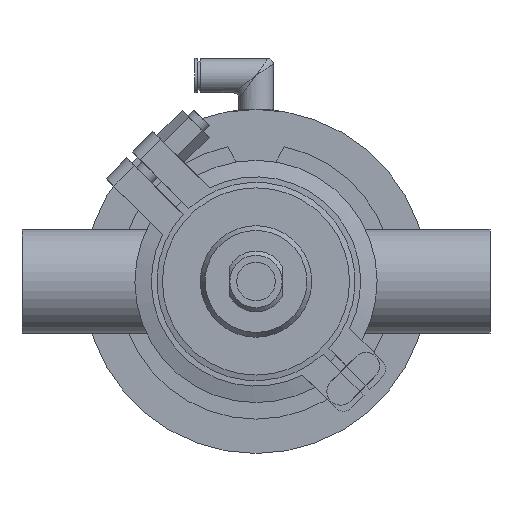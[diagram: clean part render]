
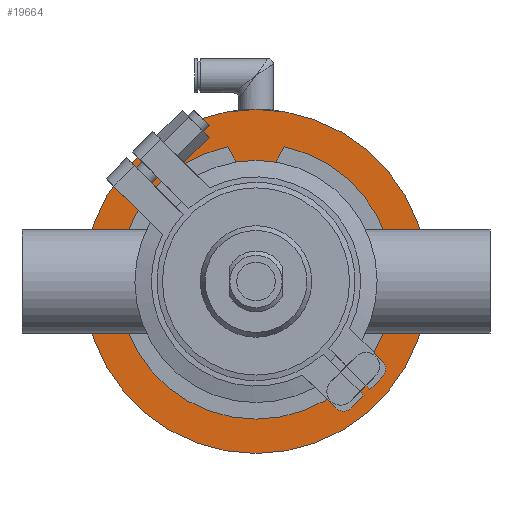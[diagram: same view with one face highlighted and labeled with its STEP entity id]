
A CAD part, front view. The second image highlights one B-rep face of the part: STEP entity #19664.
In plain terms, the highlighted planar face has unit normal (0, -1, 0).
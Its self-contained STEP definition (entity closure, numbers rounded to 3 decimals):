
#3559 = EDGE_CURVE ( 'NONE', #17479, #17479, #8431, .T. ) ;
#4902 = PLANE ( 'NONE',  #9924 ) ;
#4946 = AXIS2_PLACEMENT_3D ( 'NONE', #13220, #18107, #11223 ) ;
#5523 = ORIENTED_EDGE ( 'NONE', *, *, #3559, .T. ) ;
#8296 = DIRECTION ( 'NONE',  ( 0., 1., 0. ) ) ;
#8431 = CIRCLE ( 'NONE', #4946, 62.5 ) ;
#9402 = EDGE_LOOP ( 'NONE', ( #5523 ) ) ;
#9924 = AXIS2_PLACEMENT_3D ( 'NONE', #16305, #8296, #16520 ) ;
#11223 = DIRECTION ( 'NONE',  ( 0., 0., -1. ) ) ;
#13220 = CARTESIAN_POINT ( 'NONE',  ( 0., 0., 0. ) ) ;
#15071 = FACE_OUTER_BOUND ( 'NONE', #9402, .T. ) ;
#16305 = CARTESIAN_POINT ( 'NONE',  ( 0., 0., 0. ) ) ;
#16520 = DIRECTION ( 'NONE',  ( 0., 0., 1. ) ) ;
#17479 = VERTEX_POINT ( 'NONE', #17685 ) ;
#17685 = CARTESIAN_POINT ( 'NONE',  ( 0., 0., -62.5 ) ) ;
#18107 = DIRECTION ( 'NONE',  ( 0., -1., 0. ) ) ;
#19664 = ADVANCED_FACE ( 'NONE', ( #15071 ), #4902, .F. ) ;
